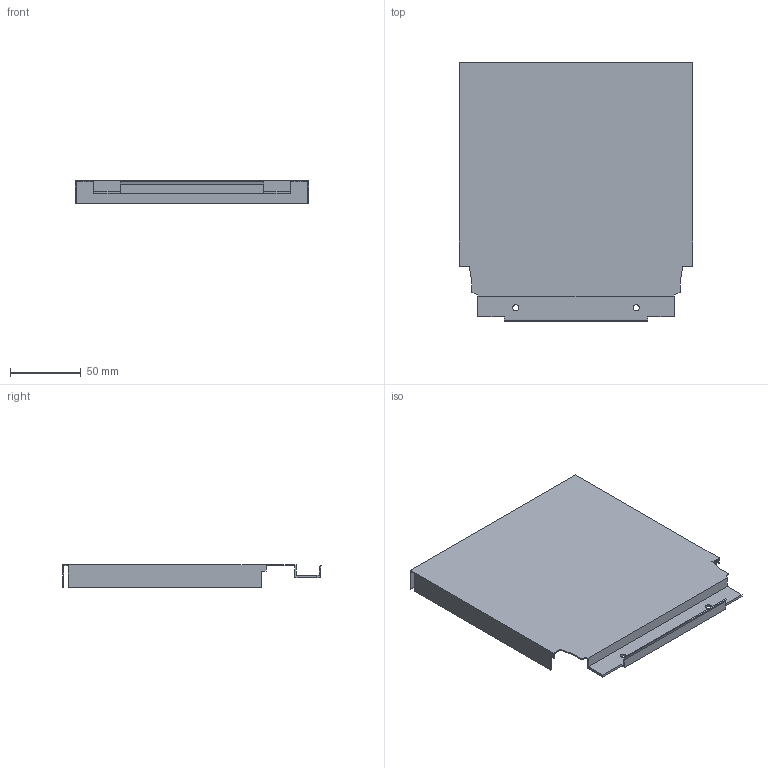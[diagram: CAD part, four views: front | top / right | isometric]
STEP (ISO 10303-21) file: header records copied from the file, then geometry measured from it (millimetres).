
FILE_DESCRIPTION (( 'STEP AP214' ), '1' );
FILE_NAME ('_DWD_XP Stahlrückwand_H182_KAB250_S17.step', '2010-07-08T12:57:40', ( 'grass' ), ( '' ), 'SwSTEP 2.0', 'SolidWorks 2010', '' );
FILE_SCHEMA (( 'AUTOMOTIVE_DESIGN' ));
Length unit declared in the file: millimetre
Products named in the file (1): _DWD_XP Stahlrückwand_H182_KAB250_S17
Bounding box: 165 x 182.49 x 16 mm (x, y, z)
Volume: 32165.1 mm3; surface area: 76013.5 mm2
Topology: 1 solids, 1 shells, 44 faces, 126 edges, 84 vertices
Faces by surface type: plane 40, cylinder 4
Entity records: 1460 total; most frequent: CARTESIAN_POINT 255, ORIENTED_EDGE 252, DIRECTION 224, EDGE_CURVE 126, LINE 118, VECTOR 118, VERTEX_POINT 84, AXIS2_PLACEMENT_3D 53
